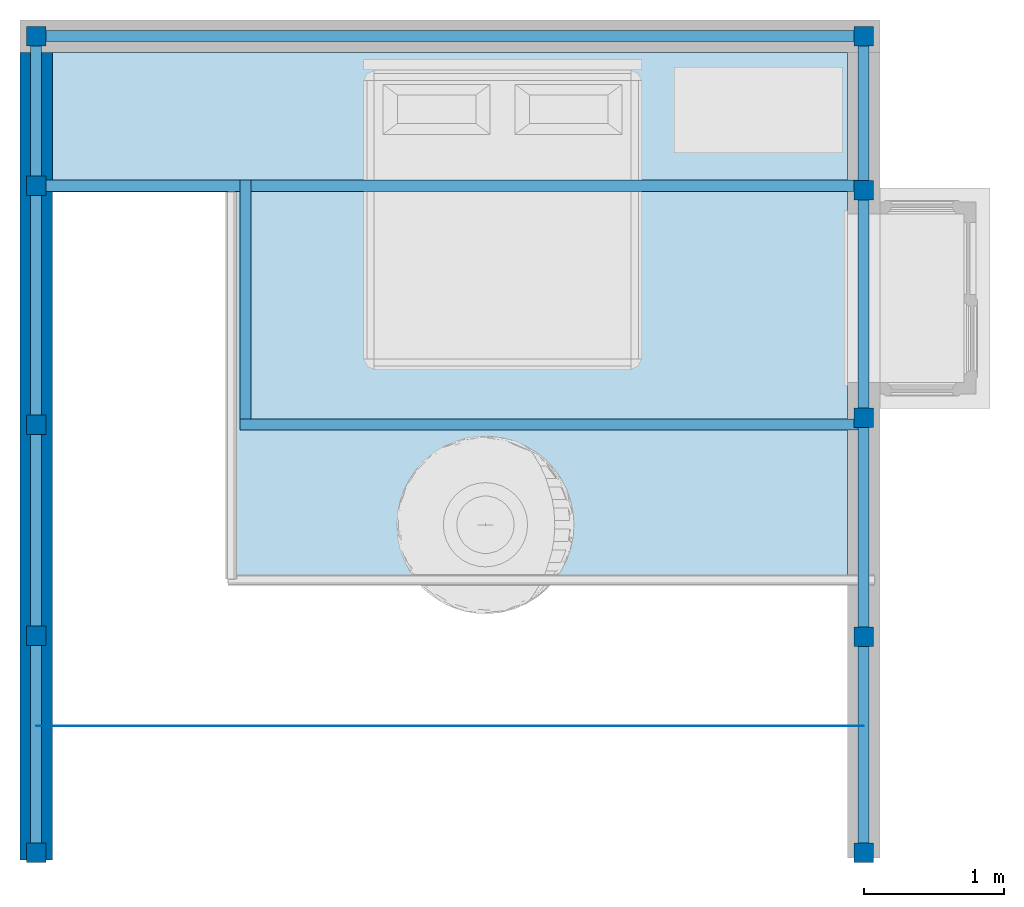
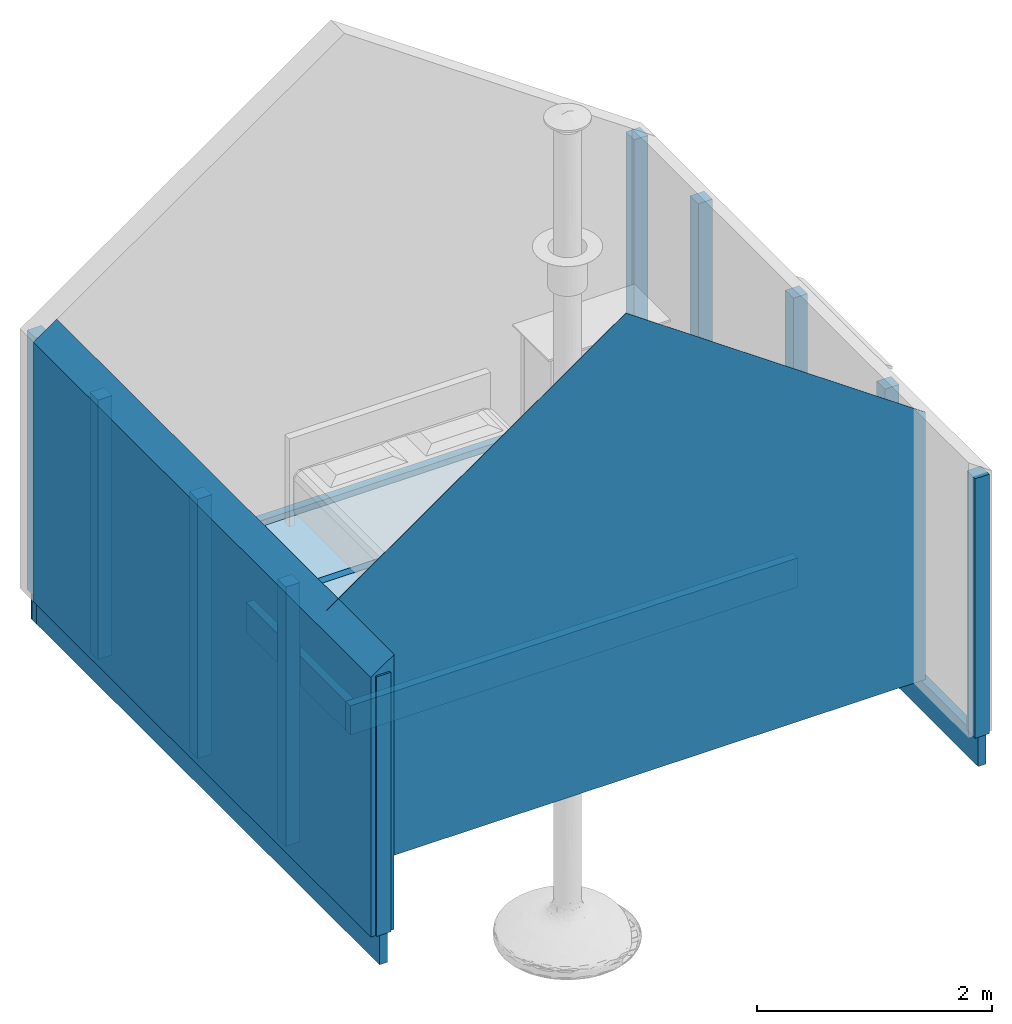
# One storey, part 1 of 5: 10 columns, 6 beams, 2 walls, 1 slab.
"""IFC2X3 building model written with IfcOpenShell, lengths in metres."""

import ifcopenshell
import ifcopenshell.guid

model = None  # the IFC model being written
_history = None  # IfcOwnerHistory: only IFC2X3 demands one
_inside = {}  # id of a spatial element -> (the spatial element, [elements in it])
_under = {}  # id of a project, library or spatial element -> (it, [spatial elements below it])
_declared = {}  # id of a project -> (the project, [libraries it declares])
_typed = {}  # id of a type object -> (the type object, [elements of that type])
_made_of = {}  # id of a material, layer set ... -> (it, [elements and type objects made of it])


def new_model(schema):
    """Start an empty IFC model of exactly this schema.

    Asked for "IFC4X3", IfcOpenShell would pick the latest addendum, in which some entities
    have other attributes; the version numbers below select the first issue.
    IFC2X3 requires an IfcOwnerHistory on every rooted entity: one is made here for all.
    """
    global model, _history
    if schema == "IFC4X3":
        model = ifcopenshell.file(schema_version=(4, 3, 0, 0))
    else:
        model = ifcopenshell.file(schema=schema)
    _inside.clear()
    _under.clear()
    _declared.clear()
    _typed.clear()
    _made_of.clear()
    _history = None
    if model.schema == "IFC2X3":
        org = make("IfcOrganization", Name="unknown")
        user = make(
            "IfcPersonAndOrganization",
            ThePerson=make("IfcPerson", FamilyName="unknown"),
            TheOrganization=org,
        )
        app = make(
            "IfcApplication",
            ApplicationDeveloper=org,
            Version="unknown",
            ApplicationFullName="unknown",
            ApplicationIdentifier="unknown",
        )
        _history = make(
            "IfcOwnerHistory",
            OwningUser=user,
            OwningApplication=app,
            ChangeAction="ADDED",
            CreationDate=0,
        )
    return model


def make(cls, **values):
    """One entity of the class cls with the attributes given. An attribute that is None is left unset."""
    return model.create_entity(
        cls, **{name: value for name, value in values.items() if value is not None}
    )


def entity(cls, *values):
    """Any entity or typed value of the class cls, its attributes in the order of the schema. None: left unset."""
    e = model.create_entity(cls)
    for i, value in enumerate(values):
        if value is not None:
            e[i] = value
    return e


def rooted(cls, **values):
    """An entity with a GlobalId (a new one), such as an element, a storey or a relation."""
    return make(cls, GlobalId=ifcopenshell.guid.new(), OwnerHistory=_history, **values)


def si_unit(unit_type, name, prefix=None):
    """IfcSIUnit, for example si_unit("LENGTHUNIT", "METRE", prefix="MILLI")."""
    return make("IfcSIUnit", UnitType=unit_type, Prefix=prefix, Name=name)


def converted_unit(unit_type, name, factor, base, dimensions=None, offset=None):
    """IfcConversionBasedUnit, such as the inch: factor (a typed value) times the base unit."""
    return make(
        "IfcConversionBasedUnit"
        if offset is None
        else "IfcConversionBasedUnitWithOffset",
        ConversionOffset=offset,
        Dimensions=None
        if dimensions is None
        else entity("IfcDimensionalExponents", *dimensions),
        UnitType=unit_type,
        Name=name,
        ConversionFactor=make(
            "IfcMeasureWithUnit", ValueComponent=factor, UnitComponent=base
        ),
    )


def derived_unit(unit_type, elements):
    """IfcDerivedUnit: a product of units, each with its exponent."""
    return make(
        "IfcDerivedUnit",
        Elements=[
            make("IfcDerivedUnitElement", Unit=unit, Exponent=power)
            for unit, power in elements
        ],
        UnitType=unit_type,
    )


def assignment(units):
    """IfcUnitAssignment: the units of a project."""
    return None if units is None else make("IfcUnitAssignment", Units=units)


def point(xyz):
    """IfcCartesianPoint."""
    return None if xyz is None else make("IfcCartesianPoint", Coordinates=xyz)


def direction(xyz):
    """IfcDirection."""
    return None if xyz is None else make("IfcDirection", DirectionRatios=xyz)


def frame(location, z_axis=None, x_axis=None):
    """IfcAxis2Placement3D, a coordinate frame: its origin and axes. An axis left out is left unset."""
    return make(
        "IfcAxis2Placement3D",
        Location=point(location),
        Axis=direction(z_axis),
        RefDirection=direction(x_axis),
    )


def frame_2d(location, x_axis=None):
    """IfcAxis2Placement2D, a coordinate frame in the plane: its origin and x axis."""
    return make(
        "IfcAxis2Placement2D", Location=point(location), RefDirection=direction(x_axis)
    )


def origin():
    """The frame at (0, 0, 0) with its axes left unset."""
    return frame((0.0, 0.0, 0.0))


def origin_2d_with_axis():
    """The frame at (0, 0) in the plane with the x axis (1, 0) written out."""
    return frame_2d((0.0, 0.0), x_axis=(1.0, 0.0))


def place(relative_to, where):
    """IfcLocalPlacement: puts the frame where relative to a parent placement (None: the world)."""
    return make(
        "IfcLocalPlacement", PlacementRelTo=relative_to, RelativePlacement=where
    )


def context(
    kind, dimensions, precision=None, world=None, true_north=None, identifier=None
):
    """IfcGeometricRepresentationContext, for example the 3D "Model" context."""
    return make(
        "IfcGeometricRepresentationContext",
        ContextIdentifier=identifier,
        ContextType=kind,
        CoordinateSpaceDimension=dimensions,
        Precision=precision,
        WorldCoordinateSystem=world,
        TrueNorth=true_north,
    )


def subcontext(parent, identifier, kind, view, scale=None):
    """IfcGeometricRepresentationSubContext, for example "Body" below "Model"."""
    return make(
        "IfcGeometricRepresentationSubContext",
        ContextIdentifier=identifier,
        ContextType=kind,
        ParentContext=parent,
        TargetScale=scale,
        TargetView=view,
    )


def project(units=None, contexts=None):
    """IfcProject with its units and contexts."""
    return rooted(
        "IfcProject",
        Name="project",
        RepresentationContexts=contexts,
        UnitsInContext=assignment(units),
    )


def spatial(cls, under=None, at=None, **own):
    """A site, building, storey or space (cls), placed at a placement, below another one or the project."""
    s = rooted(cls, ObjectPlacement=at, **own)
    if under is not None:
        _under.setdefault(under.id(), (under, []))[1].append(s)
    return s


def polyline(points):
    """IfcPolyline through the points."""
    return make("IfcPolyline", Points=[point(p) for p in points])


def profile(cls, at=None, kind="AREA", **sizes):
    """A parametric profile (cls). Its sizes go by their IFC names, for example OverallWidth=200.0."""
    return make(cls, ProfileType=kind, Position=at, **sizes)


def rectangle(**sizes):
    """IfcRectangleProfileDef."""
    return profile("IfcRectangleProfileDef", **sizes)


def outline(outer, holes=None, kind="AREA"):
    """IfcArbitraryClosedProfileDef: a profile drawn as a closed curve; with holes, ...WithVoids."""
    if holes is None:
        return make("IfcArbitraryClosedProfileDef", ProfileType=kind, OuterCurve=outer)
    return make(
        "IfcArbitraryProfileDefWithVoids",
        ProfileType=kind,
        OuterCurve=outer,
        InnerCurves=holes,
    )


def extrude(swept, where, along, depth):
    """IfcExtrudedAreaSolid: the profile swept, set in the frame where, extruded along a direction by depth."""
    return make(
        "IfcExtrudedAreaSolid",
        SweptArea=swept,
        Position=where,
        ExtrudedDirection=direction(along),
        Depth=depth,
    )


def clip(a, b, op="DIFFERENCE"):
    """IfcBooleanClippingResult: the solid a cut by the half space b."""
    return make(
        "IfcBooleanClippingResult", Operator=op, FirstOperand=a, SecondOperand=b
    )


def bounded_halfspace(plane, agree, where, boundary):
    """IfcPolygonalBoundedHalfSpace: a half space limited to a polygon's prism."""
    return make(
        "IfcPolygonalBoundedHalfSpace",
        BaseSurface=make("IfcPlane", Position=plane),
        AgreementFlag=agree,
        Position=where,
        PolygonalBoundary=boundary,
    )


def shape(context_of_items, identifier, shape_type, items):
    """IfcShapeRepresentation: the items that make up one representation, for example the "Body"."""
    return make(
        "IfcShapeRepresentation",
        ContextOfItems=context_of_items,
        RepresentationIdentifier=identifier,
        RepresentationType=shape_type,
        Items=items,
    )


def source(mapping_origin, context_of_items, identifier, shape_type, items):
    """IfcRepresentationMap: a shape defined once, which mapped items show again and again."""
    return make(
        "IfcRepresentationMap",
        MappingOrigin=mapping_origin,
        MappedRepresentation=shape(context_of_items, identifier, shape_type, items),
    )


def transform(
    local_origin,
    x_axis=None,
    y_axis=None,
    z_axis=None,
    scale=None,
    scale2=None,
    scale3=None,
    uniform=True,
):
    """IfcCartesianTransformationOperator3D, or its non-uniform kind. x_axis, y_axis, z_axis: its Axis1, 2, 3."""
    if uniform:
        return make(
            "IfcCartesianTransformationOperator3D",
            Axis1=direction(x_axis),
            Axis2=direction(y_axis),
            LocalOrigin=point(local_origin),
            Scale=scale,
            Axis3=direction(z_axis),
        )
    return make(
        "IfcCartesianTransformationOperator3DnonUniform",
        Axis1=direction(x_axis),
        Axis2=direction(y_axis),
        LocalOrigin=point(local_origin),
        Scale=scale,
        Axis3=direction(z_axis),
        Scale2=scale2,
        Scale3=scale3,
    )


def mapped(mapping_source, mapping_target):
    """IfcMappedItem: shows the shape of a source again, moved by a transform."""
    return make(
        "IfcMappedItem", MappingSource=mapping_source, MappingTarget=mapping_target
    )


def material(Name=None, Category=None):
    """IfcMaterial."""
    return make("IfcMaterial", Name=Name, Category=Category)


def layer(
    of_material, thickness, ventilated=None, Name=None, Category=None, Priority=None
):
    """IfcMaterialLayer: one layer of a wall or slab, of a material (None: an air gap)."""
    return make(
        "IfcMaterialLayer",
        Material=of_material,
        LayerThickness=thickness,
        IsVentilated=ventilated,
        Name=Name,
        Category=Category,
        Priority=Priority,
    )


def layer_set(layers, Name=None):
    """IfcMaterialLayerSet."""
    return make("IfcMaterialLayerSet", MaterialLayers=layers, LayerSetName=Name)


def layer_usage(for_layer_set, set_direction, sense, offset, extent=None):
    """IfcMaterialLayerSetUsage: how a layer set lies in its element."""
    return make(
        "IfcMaterialLayerSetUsage",
        ForLayerSet=for_layer_set,
        LayerSetDirection=set_direction,
        DirectionSense=sense,
        OffsetFromReferenceLine=offset,
        ReferenceExtent=extent,
    )


def made_of(thing, what):
    """Note that an element or type object is made of a material, layer set ...; save() writes the relation."""
    if what is not None:
        _made_of.setdefault(what.id(), (what, []))[1].append(thing)
    return thing


def type_object(cls, material=None, **own):
    """A type object (cls), such as IfcWallType, which elements share."""
    return made_of(rooted(cls, **own), material)


def type_shapes(of_type, sources):
    """Give a type object the sources (RepresentationMaps) that its elements show as mapped items."""
    of_type.RepresentationMaps = sources


def element(
    cls,
    number,
    at=None,
    inside=None,
    cuts=None,
    type_object=None,
    material=None,
    context=None,
    identifier="Body",
    shape_type=None,
    held_by="IfcProductDefinitionShape",
    body=None,
    shapes=None,
    **own,
):
    """One element of the class cls, such as IfcWall. Its Tag is "e" and its number.

    at: its placement. inside: the storey or other place that contains it. cuts: it is an
    opening in that element (IfcRelVoidsElement). A single representation is given by context,
    identifier, shape_type and body (its items); several are given by shapes. held_by: the class
    of the entity that holds the representations. save() writes the other relations.
    """
    e = rooted(cls, Tag="e%d" % number, ObjectPlacement=at, **own)
    if body is not None:
        shapes = [shape(context, identifier, shape_type, body)]
    if shapes is not None:
        e.Representation = make(held_by, Representations=shapes)
    if inside is not None:
        _inside.setdefault(inside.id(), (inside, []))[1].append(e)
    if cuts is not None:
        rooted(
            "IfcRelVoidsElement", RelatingBuildingElement=cuts, RelatedOpeningElement=e
        )
    if type_object is not None:
        _typed.setdefault(type_object.id(), (type_object, []))[1].append(e)
    return made_of(e, material)


def aggregate(whole, parts):
    """IfcRelAggregates: a whole, such as a stair, and the parts it consists of."""
    return rooted("IfcRelAggregates", RelatingObject=whole, RelatedObjects=parts)


def save(model, path):
    """Write the relations noted so far, then the file.

    IfcRelAggregates (storeys below a building ...), IfcRelContainedInSpatialStructure (elements
    in a storey), IfcRelDefinesByType, IfcRelAssociatesMaterial and IfcRelDeclares: one each for
    every whole, place, type object, material and project.
    """
    for whole, parts in _under.values():
        aggregate(whole, parts)
    for where, things in _inside.values():
        rooted(
            "IfcRelContainedInSpatialStructure",
            RelatedElements=things,
            RelatingStructure=where,
        )
    for kind, things in _typed.values():
        rooted("IfcRelDefinesByType", RelatedObjects=things, RelatingType=kind)
    for what, things in _made_of.values():
        rooted("IfcRelAssociatesMaterial", RelatedObjects=things, RelatingMaterial=what)
    for by, libraries in _declared.values():
        rooted("IfcRelDeclares", RelatingContext=by, RelatedDefinitions=libraries)
    model.write(path)


model = new_model("IFC2X3")

# Units and contexts
model_context = context("Model", 3, precision=1e-05, world=origin(), true_north=direction((6.123233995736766e-17, 1.0)))
body_context = subcontext(model_context, "Body", "Model", "MODEL_VIEW")
ifc_project = project(units=[si_unit("LENGTHUNIT", "METRE"), si_unit("AREAUNIT", "SQUARE_METRE"), converted_unit("PLANEANGLEUNIT", "DEGREE", entity("IfcPlaneAngleMeasure", 0.017453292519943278), si_unit("PLANEANGLEUNIT", "RADIAN"), dimensions=[0, 0, 0, 0, 0, 0, 0]), derived_unit("THERMALTRANSMITTANCEUNIT", [(si_unit("MASSUNIT", "GRAM", prefix="KILO"), 1), (si_unit("THERMODYNAMICTEMPERATUREUNIT", "KELVIN"), -1), (si_unit("TIMEUNIT", "SECOND"), -3)])], contexts=[model_context])

# Site, building, storey
site_placement = place(None, origin())
site = spatial("IfcSite", under=ifc_project, at=site_placement, Name="Default", CompositionType="ELEMENT")
building_placement = place(site_placement, origin())
building = spatial("IfcBuilding", under=site, at=building_placement, CompositionType="ELEMENT")
storey_placement = place(building_placement, frame((0.0, 0.0, 3.0999999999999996)))
storey = spatial("IfcBuildingStorey", under=building, at=storey_placement, Name="1 - First Floor", CompositionType="ELEMENT", Elevation=3.0999999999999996)

# Columns
ifc_material_1 = material(Name="Softwood, Lumber")
column_type = type_object("IfcColumnType", Name="M_Timber-Column:140x140", PredefinedType="COLUMN", material=ifc_material_1)
shared_shape = source(origin(), body_context, "Body", "SweptSolid", [
    extrude(rectangle(XDim=0.1397, YDim=0.1397, at=origin_2d_with_axis()), frame((0.0, 0.0, 3.0999999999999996), z_axis=(0.0, 0.0, 1.0), x_axis=(-1.0, 0.0, 0.0)), (0.0, 0.0, 1.0), 2.6999999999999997),
])
type_shapes(column_type, [shared_shape])
for number, where, name in (
    (1, (-2.4209240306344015, -2.14574991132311, -3.0999999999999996), "M_Timber-Column:140x140"),
    (2, (3.4680759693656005, -2.1457499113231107, -3.0999999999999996), "M_Timber-Column:140x140"),
    (3, (3.468075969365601, 0.9511031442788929, -3.0999999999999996), "M_Timber-Column:140x140"),
    (4, (3.468075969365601, -0.6088968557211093, -3.0999999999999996), "M_Timber-Column:140x140"),
    (5, (3.468075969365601, 2.5711031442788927, -3.0999999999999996), "M_Timber-Column:140x140"),
    (6, (3.468075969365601, 3.6670517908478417, -3.0999999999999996), "M_Timber-Column:140x140"),
    (7, (-2.4219240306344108, 3.6670517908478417, -3.0999999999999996), "M_Timber-Column:140x140"),
    (8, (-2.4209240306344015, 2.6020517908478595, -3.0999999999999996), "M_Timber-Column:140x140"),
    (9, (-2.4219240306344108, 0.9020517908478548, -3.0999999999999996), "M_Timber-Column:140x140"),
    (10, (-2.421924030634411, -0.6017499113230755, -3.0999999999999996), "M_Timber-Column:140x140"),
):
    element("IfcColumn", number, at=place(storey_placement, frame(where)), inside=storey, type_object=column_type, material=ifc_material_1, Name=name, ObjectType="M_Timber-Column:140x140", context=body_context, shape_type="MappedRepresentation", body=[
        mapped(shared_shape, transform((0.0, 0.0, 0.0), scale=1.0)),
    ])

# Beams
beam_type = type_object("IfcBeamType", Name="M_Glulam-Western Species:79X305", PredefinedType="BEAM")
beam_1_placement = place(storey_placement, frame((-2.421924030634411, -2.19794820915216, 0.0), z_axis=(0.0, 0.0, 1.0), x_axis=(0.0, 1.0, 0.0)))
element("IfcBeam", 11, at=beam_1_placement, inside=storey, type_object=beam_type, material=ifc_material_1, Name="M_Glulam-Western Species:79X305", ObjectType="M_Glulam-Western Species:79X305", context=body_context, shape_type="SweptSolid", body=[
    extrude(rectangle(XDim=0.305, YDim=0.07900000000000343, at=frame_2d((0.0, -1.3530843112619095e-16), x_axis=(1.0, 0.0))), frame((-0.01765170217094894, 0.0, -0.1525000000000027), z_axis=(1.0, 0.0, 0.0), x_axis=(0.0, 0.0, -1.0)), (0.0, 0.0, 1.0), 5.93750170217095),
])
beam_2_placement = place(storey_placement, frame((3.4680759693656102, 3.6670517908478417, 0.0), z_axis=(0.0, 0.0, 1.0), x_axis=(0.0, -1.0, 0.0)))
element("IfcBeam", 12, at=beam_2_placement, inside=storey, type_object=beam_type, material=ifc_material_1, Name="M_Glulam-Western Species:79X305", ObjectType="M_Glulam-Western Species:79X305", context=body_context, shape_type="SweptSolid", body=[
    extrude(rectangle(XDim=0.30499999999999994, YDim=0.0790000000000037, at=frame_2d((0.0, 2.706168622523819e-16), x_axis=(1.0, 0.0))), frame((-0.039500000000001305, 0.0, -0.1525000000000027), z_axis=(1.0, 0.0, 0.0), x_axis=(0.0, 0.0, -1.0)), (0.0, 0.0, 1.0), 5.922151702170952),
])
beam_3_placement = place(storey_placement, frame((-2.421924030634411, 3.6670517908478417, 0.0)))
element("IfcBeam", 13, at=beam_3_placement, inside=storey, type_object=beam_type, material=ifc_material_1, Name="M_Glulam-Western Species:79X305", ObjectType="M_Glulam-Western Species:79X305", context=body_context, shape_type="SweptSolid", body=[
    extrude(rectangle(XDim=0.305, YDim=0.07900000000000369, at=origin_2d_with_axis()), frame((-0.03949999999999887, 0.0, -0.1525000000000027), z_axis=(1.0, 0.0, 0.0), x_axis=(0.0, 0.0, -1.0)), (0.0, 0.0, 1.0), 5.96900000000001),
])
beam_4_placement = place(storey_placement, frame((3.4680759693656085, 2.6020517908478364, 0.0), z_axis=(0.0, 0.0, 1.0), x_axis=(-1.0, 0.0, 0.0)))
element("IfcBeam", 14, at=beam_4_placement, inside=storey, type_object=beam_type, material=ifc_material_1, Name="M_Glulam-Western Species:79X305", ObjectType="M_Glulam-Western Species:79X305", context=body_context, shape_type="SweptSolid", body=[
    extrude(rectangle(XDim=0.305, YDim=0.07900000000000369, at=frame_2d((0.0, -2.706168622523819e-16), x_axis=(1.0, 0.0))), frame((0.03950000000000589, 0.0, -0.1525000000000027), z_axis=(1.0, 0.0, 0.0), x_axis=(0.0, 0.0, -1.0)), (0.0, 0.0, 1.0), 5.81100000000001),
])
beam_5_placement = place(storey_placement, frame((3.468075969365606, 0.9020517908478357, 0.0), z_axis=(0.0, 0.0, 1.0), x_axis=(-1.0, 0.0, 0.0)))
element("IfcBeam", 15, at=beam_5_placement, inside=storey, type_object=beam_type, material=ifc_material_1, Name="M_Glulam-Western Species:79X305", ObjectType="M_Glulam-Western Species:79X305", context=body_context, shape_type="SweptSolid", body=[
    extrude(rectangle(XDim=0.305, YDim=0.07900000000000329, at=frame_2d((0.0, 2.0122792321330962e-16), x_axis=(1.0, 0.0))), frame((0.039500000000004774, 0.0, -0.1525000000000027), z_axis=(1.0, 0.0, 0.0), x_axis=(0.0, 0.0, -1.0)), (0.0, 0.0, 1.0), 4.400499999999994),
])
beam_6_placement = place(storey_placement, frame((-0.9319240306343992, 2.6020517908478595, 0.0), z_axis=(0.0, 0.0, 1.0), x_axis=(0.0, -1.0, 0.0)))
element("IfcBeam", 16, at=beam_6_placement, inside=storey, type_object=beam_type, material=ifc_material_1, Name="M_Glulam-Western Species:79X305", ObjectType="M_Glulam-Western Species:79X305", context=body_context, shape_type="SweptSolid", body=[
    extrude(rectangle(XDim=0.305, YDim=0.07900000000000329, at=origin_2d_with_axis()), frame((-0.03950000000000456, 0.0, -0.1525000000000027), z_axis=(1.0, 0.0, 0.0), x_axis=(0.0, 0.0, -1.0)), (0.0, 0.0, 1.0), 1.7000000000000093),
])

# Slab
ifc_material_2 = material(Name="Wood Vinyl Finish")
ifc_layer_1 = layer(ifc_material_2, 0.015)
ifc_material_3 = material(Name="wood fiber")
ifc_layer_2 = layer(ifc_material_3, 0.02)
ifc_material_4 = material(Name="Structure, Timber Joist/Rafter Layer")
ifc_layer_3 = layer(ifc_material_4, 0.2)
ifc_material_5 = material(Name="cross laminated timber")
ifc_layer_4 = layer(ifc_material_5, 0.02)
ifc_material_6 = material(Name="vapor barrier")
ifc_layer_5 = layer(ifc_material_6, 0.003)
ifc_material_7 = material(Name="Ghiaia")
ifc_layer_6 = layer(ifc_material_7, 0.05)
ifc_layer_set_1 = layer_set([ifc_layer_1, ifc_layer_2, ifc_layer_3, ifc_layer_4, ifc_layer_5, ifc_layer_6], Name="Floor:Latero Cementizio - 40 cm")
ifc_layer_usage_1 = layer_usage(ifc_layer_set_1, "AXIS3", "POSITIVE", 0.0)
slab_type = type_object("IfcSlabType", Name="Floor:Latero Cementizio - 40 cm", PredefinedType="FLOOR", material=ifc_layer_set_1)
slab_placement = place(storey_placement, origin())
element("IfcSlab", 17, at=slab_placement, inside=storey, type_object=slab_type, material=ifc_layer_usage_1, Name="Floor:Latero Cementizio - 40 cm", ObjectType="Floor:Latero Cementizio - 40 cm", PredefinedType="FLOOR", context=body_context, shape_type="SweptSolid", body=[
    extrude(outline(polyline([(0.5874655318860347, -2.3116666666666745), (1.5812672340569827, -2.3116666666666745), (1.5812672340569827, 3.3483333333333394), (-2.1687327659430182, 3.3483333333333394), (-2.1687327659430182, -1.036666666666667), (0.5874655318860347, -1.0366666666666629), (0.5874655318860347, -2.3116666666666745)])), frame((0.004742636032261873, 1.9707845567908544, 0.0), z_axis=(0.0, 0.0, -1.0), x_axis=(0.0, 1.0, 0.0)), (0.0, 0.0, 1.0), 0.30799999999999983),
])

# Walls
ifc_material_8 = material(Name="gypsum plaster")
ifc_layer_7 = layer(ifc_material_8, 0.025)
ifc_layer_8 = layer(ifc_material_3, 0.02)
ifc_material_9 = material(Name="osb panel")
ifc_layer_9 = layer(ifc_material_9, 0.02)
ifc_layer_10 = layer(ifc_material_3, 0.02)
ifc_material_10 = material(Name="water proof and wind proof sheet")
ifc_layer_11 = layer(ifc_material_10, 0.005)
ifc_layer_12 = layer(ifc_material_9, 0.02)
ifc_material_11 = material(Name="mineral rock wool")
ifc_layer_13 = layer(ifc_material_11, 0.04)
ifc_material_12 = material(Name="air cavity")
ifc_layer_14 = layer(ifc_material_12, 0.05)
ifc_material_13 = material(Name="plaster board panel")
ifc_layer_15 = layer(ifc_material_13, 0.03)
ifc_layer_set_2 = layer_set([ifc_layer_7, ifc_layer_8, ifc_layer_9, ifc_layer_10, ifc_layer_11, ifc_layer_12, ifc_layer_13, ifc_layer_14, ifc_layer_15], Name="Basic Wall:external wall 2")
ifc_layer_usage_2 = layer_usage(ifc_layer_set_2, "AXIS2", "NEGATIVE", 0.11500000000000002)
wall_type_1 = type_object("IfcWallType", Name="Basic Wall:external wall 2", PredefinedType="STANDARD", material=ifc_layer_set_2)
wall_1_placement = place(storey_placement, frame((-2.421924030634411, -2.19794820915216, 0.0), z_axis=(0.0, 0.0, 1.0), x_axis=(0.0, 1.0, 0.0)))
element("IfcWallStandardCase", 18, at=wall_1_placement, inside=storey, type_object=wall_type_1, material=ifc_layer_usage_2, Name="Basic Wall:external wall 2", ObjectType="Basic Wall:external wall 2", context=body_context, shape_type="Clipping", body=[
    clip(extrude(rectangle(XDim=5.750000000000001, YDim=0.23000000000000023, at=frame_2d((2.8750000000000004, 0.0), x_axis=(-1.0, 0.0))), origin(), (0.0, 0.0, 1.0), 2.8610477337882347), bounded_halfspace(frame((0.0, -0.11499999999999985, 2.8610477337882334), z_axis=(0.0, 0.5735764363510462, 0.8191520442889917), x_axis=(-1.0, 0.0, 0.0)), False, frame((0.0, -0.11499999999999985, 2.8610477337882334)), polyline([(0.0, 0.0), (5.750000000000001, 0.0), (5.750000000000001, 0.22999999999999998), (0.0, 0.22999999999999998), (0.0, 0.0)]))),
])
ifc_material_14 = material(Name="Glass, Clear Glazing")
ifc_layer_16 = layer(ifc_material_14, 0.004)
ifc_layer_set_3 = layer_set([ifc_layer_16], Name="Basic Wall:Exterior - Brick on Mtl. Stud")
ifc_layer_usage_3 = layer_usage(ifc_layer_set_3, "AXIS2", "NEGATIVE", 0.002000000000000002)
wall_type_2 = type_object("IfcWallType", Name="Basic Wall:Exterior - Brick on Mtl. Stud", PredefinedType="STANDARD", material=ifc_layer_set_3)
wall_2_placement = place(storey_placement, frame((3.468075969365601, -1.2437499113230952, 0.0), z_axis=(0.0, 0.0, 1.0), x_axis=(-1.0, 0.0, 0.0)))
element("IfcWallStandardCase", 19, at=wall_2_placement, inside=storey, type_object=wall_type_2, material=ifc_layer_usage_3, Name="Basic Wall:Exterior - Brick on Mtl. Stud", ObjectType="Basic Wall:Exterior - Brick on Mtl. Stud", context=body_context, shape_type="Clipping", body=[
    clip(clip(extrude(rectangle(XDim=5.890000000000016, YDim=0.0040000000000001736, at=frame_2d((2.945000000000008, 0.0), x_axis=(-1.0, 0.0))), origin(), (0.0, 0.0, 1.0), 4.842635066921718), bounded_halfspace(frame((2.9450000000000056, -0.001999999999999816, 4.842635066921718), z_axis=(0.5735764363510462, 0.0, 0.8191520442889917), x_axis=(0.0, 1.0, 0.0)), False, frame((2.9450000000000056, -0.001999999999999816, 4.842635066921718)), polyline([(0.0, 0.0), (2.94500000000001, 0.0), (2.94500000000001, 0.003999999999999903), (0.0, 0.003999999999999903), (0.0, 0.0)]))), bounded_halfspace(frame((0.0, -0.001999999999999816, 2.780523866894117), z_axis=(-0.5735764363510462, 0.0, 0.8191520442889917), x_axis=(0.0, -1.0, 0.0)), False, frame((0.0, -0.001999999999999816, 2.780523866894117)), polyline([(0.0, 0.0), (2.945000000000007, 0.0), (2.945000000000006, 0.003999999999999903), (0.0, 0.003999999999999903), (0.0, 0.0)]))),
])

save(model, "model.ifc")
